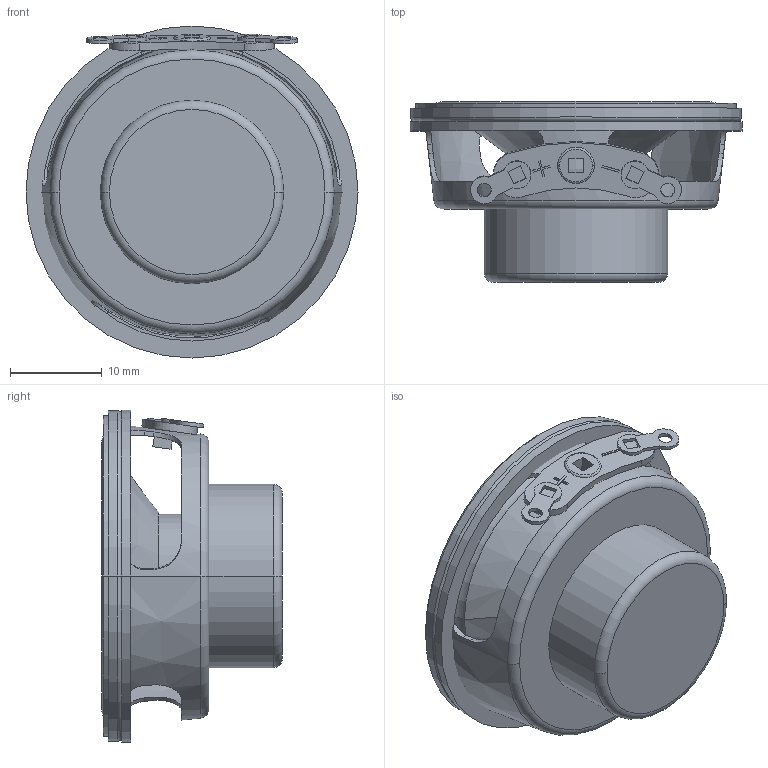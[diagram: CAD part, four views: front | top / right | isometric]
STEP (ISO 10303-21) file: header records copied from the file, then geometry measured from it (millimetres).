
FILE_DESCRIPTION((''),'2;1');
FILE_NAME('ST-9A14B_ASM','2023-09-23T09:30:17',('54257'),(''),'CREO PARAMETRIC BY PTC INC, 2020053','CREO PARAMETRIC BY PTC INC, 2020053','');
FILE_SCHEMA(('CONFIG_CONTROL_DESIGN','SHAPE_APPEARANCE_LAYERS_GROUPS'));
Length unit declared in the file: millimetre
Products named in the file (13): HF-361172; HP-361172-1; HM-361172; HP-361172; HC_361172; HD-361172; HT-361172; HG-361172; HV_361172; HA-361172; HM-_361172; HG-361172-1; ST-9A14B_ASM
Assembly tree (12 placements, depth 2):
  ST-9A14B_ASM
    HF-361172
    HP-361172-1
    HM-361172
    HP-361172
    HC_361172
    HD-361172
    HT-361172
    HG-361172
    HV_361172
    HA-361172
    HM-_361172
    HG-361172-1
Bounding box: 36.2 x 19.7 x 36.2 mm (x, y, z)
Volume: 3972.3 mm3; surface area: 12235.6 mm2
Topology: 12 solids, 12 shells, 234 faces, 522 edges, 322 vertices
Faces by surface type: plane 92, cylinder 62, torus 38, cone 38, sphere 4
Entity records: 10267 total; most frequent: CARTESIAN_POINT 1444, DIRECTION 1238, ORIENTED_EDGE 1036, PRESENTATION_STYLE_ASSIGNMENT 750, STYLED_ITEM 750, CURVE_STYLE 518, EDGE_CURVE 518, AXIS2_PLACEMENT_3D 505
